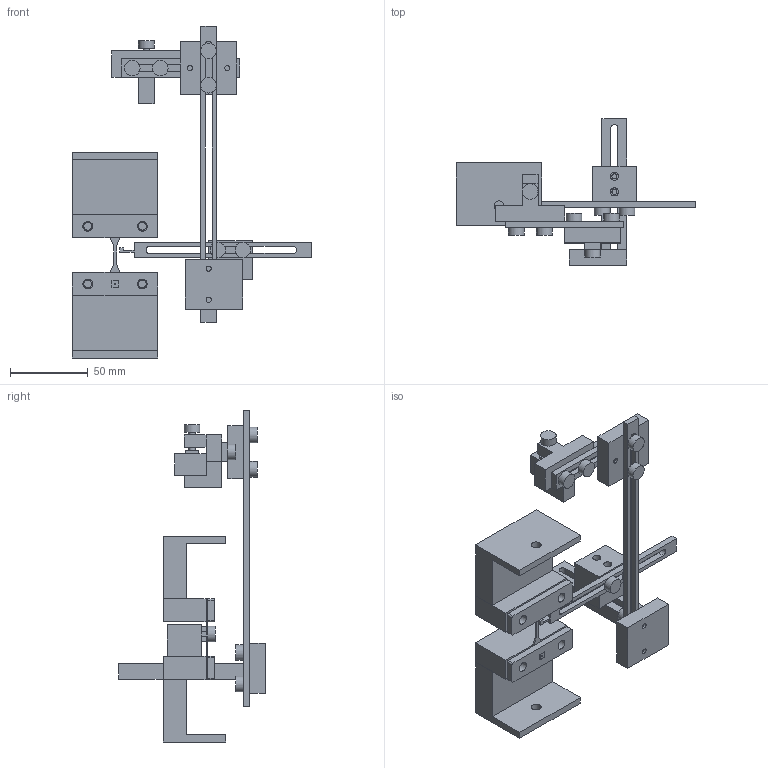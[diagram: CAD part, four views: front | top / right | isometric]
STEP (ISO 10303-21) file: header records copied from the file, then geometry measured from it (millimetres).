
FILE_DESCRIPTION(('Open CASCADE Model'),'2;1');
FILE_NAME('Open CASCADE Shape Model','2026-11-08T06:44:00',('Author'),( 'Open CASCADE'),'Open CASCADE STEP processor 7.8','Open CASCADE 7.8' ,'Unknown');
FILE_SCHEMA(('AUTOMOTIVE_DESIGN { 1 0 10303 214 1 1 1 1 }'));
Length unit declared in the file: millimetre
Products named in the file (30): R_installation_ASSUMED_REFERENCE; 01_clamp_body_T14; 02_protective_pad; 03_horizontal_bar; 04_corner; 05_vertical_rail_190; 06_ribbed_depth_carriage; 07_cross_slide_carriage; 08_sliding_target_flag; M4x12_A_01; M4x12_A_02; M4x12_B_03; M4x12_B_04; M4x12_C_05; M4x12_C_06; M4x12_D_07; M4x12_D_08; M4x12_E_09; M4x12_E_10; M4x12_F_11; M4x12_F_12; M4x12_P_13; local_T14_patch_REFERENCE; lower_mount; upper_mount; lower_cover; upper_cover; nominal_sample; fixed_label; fixed_dot
Assembly tree (29 placements, depth 2):
  R_installation_ASSUMED_REFERENCE
    01_clamp_body_T14
    02_protective_pad
    03_horizontal_bar
    04_corner
    05_vertical_rail_190
    06_ribbed_depth_carriage
    07_cross_slide_carriage
    08_sliding_target_flag
    M4x12_A_01
    M4x12_A_02
    M4x12_B_03
    M4x12_B_04
    M4x12_C_05
    M4x12_C_06
    M4x12_D_07
    M4x12_D_08
    M4x12_E_09
    M4x12_E_10
    M4x12_F_11
    M4x12_F_12
    M4x12_P_13
    local_T14_patch_REFERENCE
    lower_mount
    upper_mount
    lower_cover
    upper_cover
    nominal_sample
    fixed_label
    fixed_dot
Bounding box: 153.7 x 94 x 213 mm (x, y, z)
Volume: 203512.2 mm3; surface area: 79211.2 mm2
Topology: 31 solids, 31 shells, 269 faces, 561 edges, 374 vertices
Faces by surface type: plane 198, cylinder 71
Full cylindrical faces by diameter (mm): 1 x1, 3.3 x13, 4 x13, 4.4 x1, 5 x4, 5.2 x4, 6.3 x6, 10 x13
Entity records: 15347 total; most frequent: CARTESIAN_POINT 2554, DIRECTION 2390, LINE 1399, VECTOR 1399, ORIENTED_EDGE 1122, PCURVE 1122, DEFINITIONAL_REPRESENTATION 1122, EDGE_CURVE 561
